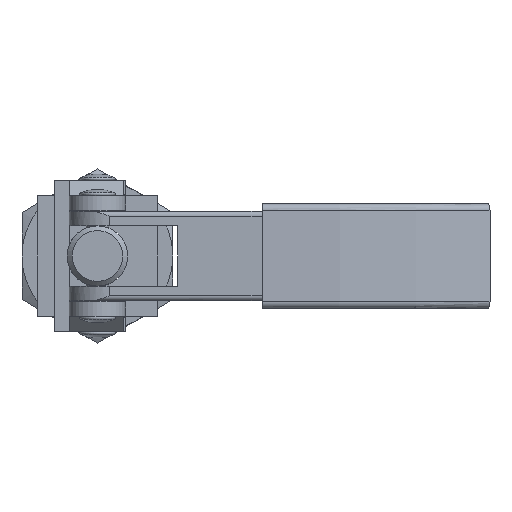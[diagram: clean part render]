
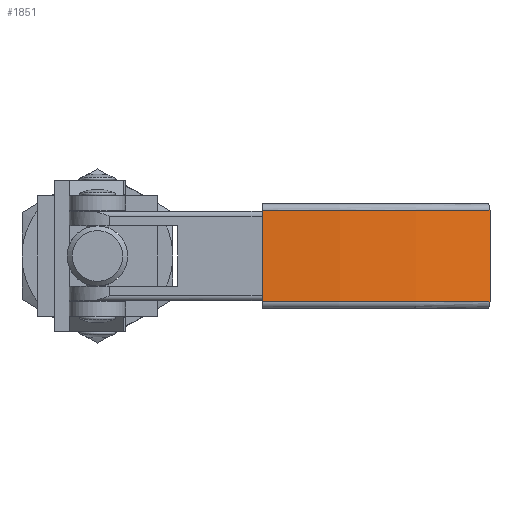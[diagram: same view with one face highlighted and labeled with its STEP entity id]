
A CAD part, left-side view. The second image highlights one B-rep face of the part: STEP entity #1851.
In plain terms, the highlighted cylindrical face has radius 40.312 mm (diameter 80.625 mm), a partial arc.
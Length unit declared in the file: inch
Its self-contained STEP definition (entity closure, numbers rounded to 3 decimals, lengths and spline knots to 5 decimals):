
#1611=CARTESIAN_POINT('',(9.02481,2.24479,0.11169));
#1612=VERTEX_POINT('',#1611);
#1620=CARTESIAN_POINT('',(9.12618,1.68667,0.11169));
#1621=VERTEX_POINT('',#1620);
#1622=CARTESIAN_POINT('',(10.61191,2.24479,0.11169));
#1623=DIRECTION('',(0.0,0.0,1.0));
#1624=DIRECTION('',(-0.984,-0.179,0.0));
#1625=AXIS2_PLACEMENT_3D('',#1622,#1623,#1624);
#1626=CIRCLE('',#1625,1.58711);
#1627=EDGE_CURVE('',#1612,#1621,#1626,.T.);
#1767=CARTESIAN_POINT('',(9.12618,1.68667,-0.11169));
#1768=VERTEX_POINT('',#1767);
#1782=CARTESIAN_POINT('',(9.02481,2.24479,-0.11169));
#1783=VERTEX_POINT('',#1782);
#1784=CARTESIAN_POINT('',(10.61191,2.24479,-0.11169));
#1785=DIRECTION('',(0.0,0.0,-1.0));
#1786=DIRECTION('',(-0.984,-0.179,0.0));
#1787=AXIS2_PLACEMENT_3D('',#1784,#1785,#1786);
#1788=CIRCLE('',#1787,1.58711);
#1789=EDGE_CURVE('',#1768,#1783,#1788,.T.);
#1809=CARTESIAN_POINT('',(9.12618,1.68667,0.11169));
#1810=DIRECTION('',(0.0,0.0,-1.0));
#1811=VECTOR('',#1810,0.22339);
#1812=LINE('',#1809,#1811);
#1813=EDGE_CURVE('',#1621,#1768,#1812,.T.);
#1835=CARTESIAN_POINT('',(10.61191,2.24479,0.0));
#1836=DIRECTION('',(0.0,0.0,1.0));
#1837=DIRECTION('',(1.0,0.0,0.0));
#1838=AXIS2_PLACEMENT_3D('',#1835,#1836,#1837);
#1839=CYLINDRICAL_SURFACE('',#1838,1.58711);
#1840=ORIENTED_EDGE('',*,*,#1789,.F.);
#1841=ORIENTED_EDGE('',*,*,#1813,.F.);
#1842=ORIENTED_EDGE('',*,*,#1627,.F.);
#1843=CARTESIAN_POINT('',(9.02481,2.24479,-0.11169));
#1844=DIRECTION('',(0.0,0.0,1.0));
#1845=VECTOR('',#1844,0.22339);
#1846=LINE('',#1843,#1845);
#1847=EDGE_CURVE('',#1783,#1612,#1846,.T.);
#1848=ORIENTED_EDGE('',*,*,#1847,.F.);
#1849=EDGE_LOOP('',(#1840,#1841,#1842,#1848));
#1850=FACE_OUTER_BOUND('',#1849,.T.);
#1851=ADVANCED_FACE('',(#1850),#1839,.T.);
